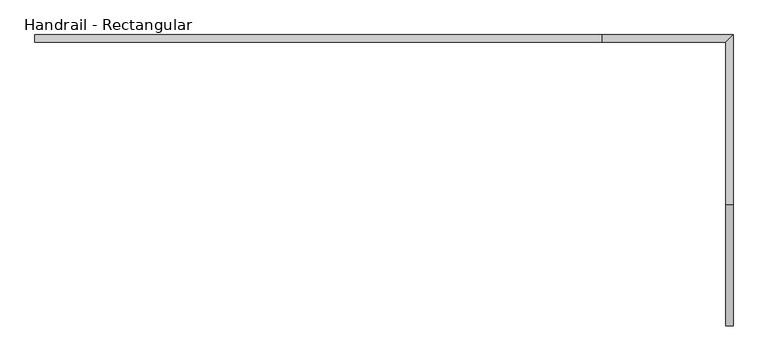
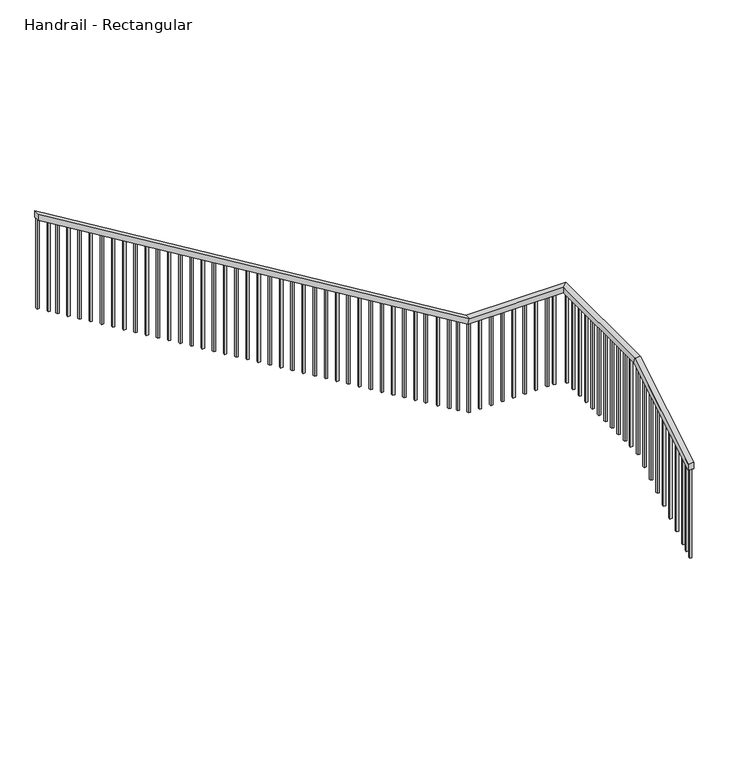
"""IFC4 building model written with IfcOpenShell, lengths in millimetres: railing geometry, Handrail - Rectangular."""

from ifc_helpers import new_model, si_unit, frame, origin, place, context, project, spatial, polyline, outline, extrude, faceted_brep, source, transform, mapped, element, save


def handrail_rectangular_a6d9fd62(model_context):
    return source(origin(), model_context, "Body", "SolidModel", [
        faceted_brep([(85.6957664, 19516.6480156, 43755.7333333), (85.6957664, 19516.6480156, 43696.3318731), (136.4957664, 19516.6480156, 43696.3318731), (136.4957664, 19516.6480156, 43755.7333333), (85.6957664, 20354.8480156, 44263.7333333), (85.6957664, 20369.040425, 44212.9333333), (136.4957664, 20369.040425, 44212.9333333), (136.4957664, 20354.8480156, 44263.7333333), (85.6957664, 21474.0355156, 44263.7333333), (85.6957664, 21474.0355156, 44212.9333333), (136.4957664, 21524.8355156, 44212.9333333), (136.4957664, 21524.8355156, 44263.7333333), (-768.3792336, 21474.0355156, 44263.7333333), (-782.571643, 21474.0355156, 44212.9333333), (-782.571643, 21524.8355156, 44212.9333333), (-768.3792336, 21524.8355156, 44263.7333333), (-4679.9792336, 21474.0355156, 46634.4), (-4679.9792336, 21524.8355156, 46634.4), (-4679.9792336, 21524.8355156, 46574.9985397), (-4679.9792336, 21474.0355156, 46574.9985397)], [[[0, 1, 2, 3]], [[1, 0, 4, 5]], [[2, 1, 5, 6]], [[3, 2, 6, 7]], [[0, 3, 7, 4]], [[5, 4, 8, 9]], [[6, 5, 9, 10]], [[7, 6, 10, 11]], [[4, 7, 11, 8]], [[9, 8, 12, 13]], [[10, 9, 13, 14]], [[11, 10, 14, 15]], [[8, 11, 15, 12]], [[16, 17, 18, 19]], [[13, 12, 16, 19]], [[14, 13, 19, 18]], [[15, 14, 18, 17]], [[12, 15, 17, 16]]]),
        extrude(outline(polyline([(45714.2272727, -4679.9792336), (45714.2272727, -4660.9292336), (46563.4530852, -4660.9292336), (46574.9985397, -4679.9792336), (45714.2272727, -4679.9792336)])), frame((0.0, 21489.9105156, 0.0), z_axis=(0.0, 1.0, 0.0), x_axis=(0.0, 0.0, 1.0)), (0.0, 0.0, 1.0), 19.05),
        extrude(outline(polyline([(45652.6515152, -4578.3792336), (45652.6515152, -4559.3292336), (46501.8773276, -4559.3292336), (46513.4227822, -4578.3792336), (45652.6515152, -4578.3792336)])), frame((0.0, 21489.9105156, 0.0), z_axis=(0.0, 1.0, 0.0), x_axis=(0.0, 0.0, 1.0)), (0.0, 0.0, 1.0), 19.05),
        extrude(outline(polyline([(45604.5454545, -4499.0042336), (45604.5454545, -4479.9542336), (46453.771267, -4479.9542336), (46465.3167216, -4499.0042336), (45604.5454545, -4499.0042336)])), frame((0.0, 21489.9105156, 0.0), z_axis=(0.0, 1.0, 0.0), x_axis=(0.0, 0.0, 1.0)), (0.0, 0.0, 1.0), 19.05),
        extrude(outline(polyline([(45544.8939394, -4400.5792336), (45544.8939394, -4381.5292336), (46394.1197519, -4381.5292336), (46405.6652064, -4400.5792336), (45544.8939394, -4400.5792336)])), frame((0.0, 21489.9105156, 0.0), z_axis=(0.0, 1.0, 0.0), x_axis=(0.0, 0.0, 1.0)), (0.0, 0.0, 1.0), 19.05),
        extrude(outline(polyline([(45483.3181818, -4298.9792336), (45483.3181818, -4279.9292336), (46332.5439943, -4279.9292336), (46344.0894488, -4298.9792336), (45483.3181818, -4298.9792336)])), frame((0.0, 21489.9105156, 0.0), z_axis=(0.0, 1.0, 0.0), x_axis=(0.0, 0.0, 1.0)), (0.0, 0.0, 1.0), 19.05),
        extrude(outline(polyline([(45421.7424242, -4197.3792336), (45421.7424242, -4178.3292336), (46270.9682367, -4178.3292336), (46282.5136913, -4197.3792336), (45421.7424242, -4197.3792336)])), frame((0.0, 21489.9105156, 0.0), z_axis=(0.0, 1.0, 0.0), x_axis=(0.0, 0.0, 1.0)), (0.0, 0.0, 1.0), 19.05),
        extrude(outline(polyline([(45360.1666667, -4095.7792336), (45360.1666667, -4076.7292336), (46209.3924791, -4076.7292336), (46220.9379337, -4095.7792336), (45360.1666667, -4095.7792336)])), frame((0.0, 21489.9105156, 0.0), z_axis=(0.0, 1.0, 0.0), x_axis=(0.0, 0.0, 1.0)), (0.0, 0.0, 1.0), 19.05),
        extrude(outline(polyline([(45298.5909091, -3994.1792336), (45298.5909091, -3975.1292336), (46147.8167216, -3975.1292336), (46159.3621761, -3994.1792336), (45298.5909091, -3994.1792336)])), frame((0.0, 21489.9105156, 0.0), z_axis=(0.0, 1.0, 0.0), x_axis=(0.0, 0.0, 1.0)), (0.0, 0.0, 1.0), 19.05),
        extrude(outline(polyline([(45237.0151515, -3892.5792336), (45237.0151515, -3873.5292336), (46086.240964, -3873.5292336), (46097.7864185, -3892.5792336), (45237.0151515, -3892.5792336)])), frame((0.0, 21489.9105156, 0.0), z_axis=(0.0, 1.0, 0.0), x_axis=(0.0, 0.0, 1.0)), (0.0, 0.0, 1.0), 19.05),
        extrude(outline(polyline([(45175.4393939, -3790.9792336), (45175.4393939, -3771.9292336), (46024.6652064, -3771.9292336), (46036.210661, -3790.9792336), (45175.4393939, -3790.9792336)])), frame((0.0, 21489.9105156, 0.0), z_axis=(0.0, 1.0, 0.0), x_axis=(0.0, 0.0, 1.0)), (0.0, 0.0, 1.0), 19.05),
        extrude(outline(polyline([(45113.8636364, -3689.3792336), (45113.8636364, -3670.3292336), (45963.0894488, -3670.3292336), (45974.6349034, -3689.3792336), (45113.8636364, -3689.3792336)])), frame((0.0, 21489.9105156, 0.0), z_axis=(0.0, 1.0, 0.0), x_axis=(0.0, 0.0, 1.0)), (0.0, 0.0, 1.0), 19.05),
        extrude(outline(polyline([(45052.2878788, -3587.7792336), (45052.2878788, -3568.7292336), (45901.5136913, -3568.7292336), (45913.0591458, -3587.7792336), (45052.2878788, -3587.7792336)])), frame((0.0, 21489.9105156, 0.0), z_axis=(0.0, 1.0, 0.0), x_axis=(0.0, 0.0, 1.0)), (0.0, 0.0, 1.0), 19.05),
        extrude(outline(polyline([(44990.7121212, -3486.1792336), (44990.7121212, -3467.1292336), (45839.9379337, -3467.1292336), (45851.4833882, -3486.1792336), (44990.7121212, -3486.1792336)])), frame((0.0, 21489.9105156, 0.0), z_axis=(0.0, 1.0, 0.0), x_axis=(0.0, 0.0, 1.0)), (0.0, 0.0, 1.0), 19.05),
        extrude(outline(polyline([(44929.1363636, -3384.5792336), (44929.1363636, -3365.5292336), (45778.3621761, -3365.5292336), (45789.9076307, -3384.5792336), (44929.1363636, -3384.5792336)])), frame((0.0, 21489.9105156, 0.0), z_axis=(0.0, 1.0, 0.0), x_axis=(0.0, 0.0, 1.0)), (0.0, 0.0, 1.0), 19.05),
        extrude(outline(polyline([(44867.5606061, -3282.9792336), (44867.5606061, -3263.9292336), (45716.7864185, -3263.9292336), (45728.3318731, -3282.9792336), (44867.5606061, -3282.9792336)])), frame((0.0, 21489.9105156, 0.0), z_axis=(0.0, 1.0, 0.0), x_axis=(0.0, 0.0, 1.0)), (0.0, 0.0, 1.0), 19.05),
        extrude(outline(polyline([(44805.9848485, -3181.3792336), (44805.9848485, -3162.3292336), (45655.210661, -3162.3292336), (45666.7561155, -3181.3792336), (44805.9848485, -3181.3792336)])), frame((0.0, 21489.9105156, 0.0), z_axis=(0.0, 1.0, 0.0), x_axis=(0.0, 0.0, 1.0)), (0.0, 0.0, 1.0), 19.05),
        extrude(outline(polyline([(44744.4090909, -3079.7792336), (44744.4090909, -3060.7292336), (45593.6349034, -3060.7292336), (45605.1803579, -3079.7792336), (44744.4090909, -3079.7792336)])), frame((0.0, 21489.9105156, 0.0), z_axis=(0.0, 1.0, 0.0), x_axis=(0.0, 0.0, 1.0)), (0.0, 0.0, 1.0), 19.05),
        extrude(outline(polyline([(44682.8333333, -2978.1792336), (44682.8333333, -2959.1292336), (45532.0591458, -2959.1292336), (45543.6046004, -2978.1792336), (44682.8333333, -2978.1792336)])), frame((0.0, 21489.9105156, 0.0), z_axis=(0.0, 1.0, 0.0), x_axis=(0.0, 0.0, 1.0)), (0.0, 0.0, 1.0), 19.05),
        extrude(outline(polyline([(44621.2575758, -2876.5792336), (44621.2575758, -2857.5292336), (45470.4833882, -2857.5292336), (45482.0288428, -2876.5792336), (44621.2575758, -2876.5792336)])), frame((0.0, 21489.9105156, 0.0), z_axis=(0.0, 1.0, 0.0), x_axis=(0.0, 0.0, 1.0)), (0.0, 0.0, 1.0), 19.05),
        extrude(outline(polyline([(44559.6818182, -2774.9792336), (44559.6818182, -2755.9292336), (45408.9076307, -2755.9292336), (45420.4530852, -2774.9792336), (44559.6818182, -2774.9792336)])), frame((0.0, 21489.9105156, 0.0), z_axis=(0.0, 1.0, 0.0), x_axis=(0.0, 0.0, 1.0)), (0.0, 0.0, 1.0), 19.05),
        extrude(outline(polyline([(44498.1060606, -2673.3792336), (44498.1060606, -2654.3292336), (45347.3318731, -2654.3292336), (45358.8773276, -2673.3792336), (44498.1060606, -2673.3792336)])), frame((0.0, 21489.9105156, 0.0), z_axis=(0.0, 1.0, 0.0), x_axis=(0.0, 0.0, 1.0)), (0.0, 0.0, 1.0), 19.05),
        extrude(outline(polyline([(44436.530303, -2571.7792336), (44436.530303, -2552.7292336), (45285.7561155, -2552.7292336), (45297.30157, -2571.7792336), (44436.530303, -2571.7792336)])), frame((0.0, 21489.9105156, 0.0), z_axis=(0.0, 1.0, 0.0), x_axis=(0.0, 0.0, 1.0)), (0.0, 0.0, 1.0), 19.05),
        extrude(outline(polyline([(44374.9545455, -2470.1792336), (44374.9545455, -2451.1292336), (45224.1803579, -2451.1292336), (45235.7258125, -2470.1792336), (44374.9545455, -2470.1792336)])), frame((0.0, 21489.9105156, 0.0), z_axis=(0.0, 1.0, 0.0), x_axis=(0.0, 0.0, 1.0)), (0.0, 0.0, 1.0), 19.05),
        extrude(outline(polyline([(44313.3787879, -2368.5792336), (44313.3787879, -2349.5292336), (45162.6046004, -2349.5292336), (45174.1500549, -2368.5792336), (44313.3787879, -2368.5792336)])), frame((0.0, 21489.9105156, 0.0), z_axis=(0.0, 1.0, 0.0), x_axis=(0.0, 0.0, 1.0)), (0.0, 0.0, 1.0), 19.05),
        extrude(outline(polyline([(44251.8030303, -2266.9792336), (44251.8030303, -2247.9292336), (45101.0288428, -2247.9292336), (45112.5742973, -2266.9792336), (44251.8030303, -2266.9792336)])), frame((0.0, 21489.9105156, 0.0), z_axis=(0.0, 1.0, 0.0), x_axis=(0.0, 0.0, 1.0)), (0.0, 0.0, 1.0), 19.05),
        extrude(outline(polyline([(44190.2272727, -2165.3792336), (44190.2272727, -2146.3292336), (45039.4530852, -2146.3292336), (45050.9985397, -2165.3792336), (44190.2272727, -2165.3792336)])), frame((0.0, 21489.9105156, 0.0), z_axis=(0.0, 1.0, 0.0), x_axis=(0.0, 0.0, 1.0)), (0.0, 0.0, 1.0), 19.05),
        extrude(outline(polyline([(44128.6515152, -2063.7792336), (44128.6515152, -2044.7292336), (44977.8773276, -2044.7292336), (44989.4227822, -2063.7792336), (44128.6515152, -2063.7792336)])), frame((0.0, 21489.9105156, 0.0), z_axis=(0.0, 1.0, 0.0), x_axis=(0.0, 0.0, 1.0)), (0.0, 0.0, 1.0), 19.05),
        extrude(outline(polyline([(44067.0757576, -1962.1792336), (44067.0757576, -1943.1292336), (44916.30157, -1943.1292336), (44927.8470246, -1962.1792336), (44067.0757576, -1962.1792336)])), frame((0.0, 21489.9105156, 0.0), z_axis=(0.0, 1.0, 0.0), x_axis=(0.0, 0.0, 1.0)), (0.0, 0.0, 1.0), 19.05),
        extrude(outline(polyline([(44005.5, -1860.5792336), (44005.5, -1841.5292336), (44854.7258125, -1841.5292336), (44866.271267, -1860.5792336), (44005.5, -1860.5792336)])), frame((0.0, 21489.9105156, 0.0), z_axis=(0.0, 1.0, 0.0), x_axis=(0.0, 0.0, 1.0)), (0.0, 0.0, 1.0), 19.05),
        extrude(outline(polyline([(43943.9242424, -1758.9792336), (43943.9242424, -1739.9292336), (44793.1500549, -1739.9292336), (44804.6955094, -1758.9792336), (43943.9242424, -1758.9792336)])), frame((0.0, 21489.9105156, 0.0), z_axis=(0.0, 1.0, 0.0), x_axis=(0.0, 0.0, 1.0)), (0.0, 0.0, 1.0), 19.05),
        extrude(outline(polyline([(43882.3484848, -1657.3792336), (43882.3484848, -1638.3292336), (44731.5742973, -1638.3292336), (44743.1197519, -1657.3792336), (43882.3484848, -1657.3792336)])), frame((0.0, 21489.9105156, 0.0), z_axis=(0.0, 1.0, 0.0), x_axis=(0.0, 0.0, 1.0)), (0.0, 0.0, 1.0), 19.05),
        extrude(outline(polyline([(43820.7727273, -1555.7792336), (43820.7727273, -1536.7292336), (44669.9985397, -1536.7292336), (44681.5439943, -1555.7792336), (43820.7727273, -1555.7792336)])), frame((0.0, 21489.9105156, 0.0), z_axis=(0.0, 1.0, 0.0), x_axis=(0.0, 0.0, 1.0)), (0.0, 0.0, 1.0), 19.05),
        extrude(outline(polyline([(43759.1969697, -1454.1792336), (43759.1969697, -1435.1292336), (44608.4227822, -1435.1292336), (44619.9682367, -1454.1792336), (43759.1969697, -1454.1792336)])), frame((0.0, 21489.9105156, 0.0), z_axis=(0.0, 1.0, 0.0), x_axis=(0.0, 0.0, 1.0)), (0.0, 0.0, 1.0), 19.05),
        extrude(outline(polyline([(43697.6212121, -1352.5792336), (43697.6212121, -1333.5292336), (44546.8470246, -1333.5292336), (44558.3924791, -1352.5792336), (43697.6212121, -1352.5792336)])), frame((0.0, 21489.9105156, 0.0), z_axis=(0.0, 1.0, 0.0), x_axis=(0.0, 0.0, 1.0)), (0.0, 0.0, 1.0), 19.05),
        extrude(outline(polyline([(43636.0454545, -1250.9792336), (43636.0454545, -1231.9292336), (44485.271267, -1231.9292336), (44496.8167216, -1250.9792336), (43636.0454545, -1250.9792336)])), frame((0.0, 21489.9105156, 0.0), z_axis=(0.0, 1.0, 0.0), x_axis=(0.0, 0.0, 1.0)), (0.0, 0.0, 1.0), 19.05),
        extrude(outline(polyline([(43580.2424242, -1158.9042336), (43580.2424242, -1139.8542336), (44429.4682367, -1139.8542336), (44441.0136913, -1158.9042336), (43580.2424242, -1158.9042336)])), frame((0.0, 21489.9105156, 0.0), z_axis=(0.0, 1.0, 0.0), x_axis=(0.0, 0.0, 1.0)), (0.0, 0.0, 1.0), 19.05),
        extrude(outline(polyline([(43512.8939394, -1047.7792336), (43512.8939394, -1028.7292336), (44362.1197519, -1028.7292336), (44373.6652064, -1047.7792336), (43512.8939394, -1047.7792336)])), frame((0.0, 21489.9105156, 0.0), z_axis=(0.0, 1.0, 0.0), x_axis=(0.0, 0.0, 1.0)), (0.0, 0.0, 1.0), 19.05),
        extrude(outline(polyline([(43451.3181818, -946.1792336), (43451.3181818, -927.1292336), (44300.5439943, -927.1292336), (44312.0894488, -946.1792336), (43451.3181818, -946.1792336)])), frame((0.0, 21489.9105156, 0.0), z_axis=(0.0, 1.0, 0.0), x_axis=(0.0, 0.0, 1.0)), (0.0, 0.0, 1.0), 19.05),
        extrude(outline(polyline([(43403.2121212, -866.8042336), (43403.2121212, -847.7542336), (44252.4379337, -847.7542336), (44263.9833882, -866.8042336), (43403.2121212, -866.8042336)])), frame((0.0, 21489.9105156, 0.0), z_axis=(0.0, 1.0, 0.0), x_axis=(0.0, 0.0, 1.0)), (0.0, 0.0, 1.0), 19.05),
        extrude(outline(polyline([(-749.3292336, 21489.9105156), (-768.3792336, 21489.9105156), (-768.3792336, 21508.9605156), (-749.3292336, 21508.9605156), (-749.3292336, 21489.9105156)])), frame((0.0, 0.0, 43349.3333333), z_axis=(0.0, 0.0, 1.0), x_axis=(1.0, 0.0, 0.0)), (0.0, 0.0, 1.0), 863.6),
        extrude(outline(polyline([(-647.7292336, 21489.9105156), (-666.7792336, 21489.9105156), (-666.7792336, 21508.9605156), (-647.7292336, 21508.9605156), (-647.7292336, 21489.9105156)])), frame((0.0, 0.0, 43349.3333333), z_axis=(0.0, 0.0, 1.0), x_axis=(1.0, 0.0, 0.0)), (0.0, 0.0, 1.0), 863.6),
        extrude(outline(polyline([(-546.1292336, 21489.9105156), (-565.1792336, 21489.9105156), (-565.1792336, 21508.9605156), (-546.1292336, 21508.9605156), (-546.1292336, 21489.9105156)])), frame((0.0, 0.0, 43349.3333333), z_axis=(0.0, 0.0, 1.0), x_axis=(1.0, 0.0, 0.0)), (0.0, 0.0, 1.0), 863.6),
        extrude(outline(polyline([(-444.5292336, 21489.9105156), (-463.5792336, 21489.9105156), (-463.5792336, 21508.9605156), (-444.5292336, 21508.9605156), (-444.5292336, 21489.9105156)])), frame((0.0, 0.0, 43349.3333333), z_axis=(0.0, 0.0, 1.0), x_axis=(1.0, 0.0, 0.0)), (0.0, 0.0, 1.0), 863.6),
        extrude(outline(polyline([(-342.9292336, 21489.9105156), (-361.9792336, 21489.9105156), (-361.9792336, 21508.9605156), (-342.9292336, 21508.9605156), (-342.9292336, 21489.9105156)])), frame((0.0, 0.0, 43349.3333333), z_axis=(0.0, 0.0, 1.0), x_axis=(1.0, 0.0, 0.0)), (0.0, 0.0, 1.0), 863.6),
        extrude(outline(polyline([(-241.3292336, 21489.9105156), (-260.3792336, 21489.9105156), (-260.3792336, 21508.9605156), (-241.3292336, 21508.9605156), (-241.3292336, 21489.9105156)])), frame((0.0, 0.0, 43349.3333333), z_axis=(0.0, 0.0, 1.0), x_axis=(1.0, 0.0, 0.0)), (0.0, 0.0, 1.0), 863.6),
        extrude(outline(polyline([(-139.7292336, 21489.9105156), (-158.7792336, 21489.9105156), (-158.7792336, 21508.9605156), (-139.7292336, 21508.9605156), (-139.7292336, 21489.9105156)])), frame((0.0, 0.0, 43349.3333333), z_axis=(0.0, 0.0, 1.0), x_axis=(1.0, 0.0, 0.0)), (0.0, 0.0, 1.0), 863.6),
        extrude(outline(polyline([(-38.1292336, 21489.9105156), (-57.1792336, 21489.9105156), (-57.1792336, 21508.9605156), (-38.1292336, 21508.9605156), (-38.1292336, 21489.9105156)])), frame((0.0, 0.0, 43349.3333333), z_axis=(0.0, 0.0, 1.0), x_axis=(1.0, 0.0, 0.0)), (0.0, 0.0, 1.0), 863.6),
        extrude(outline(polyline([(23.7832664, 21489.9105156), (4.7332664, 21489.9105156), (4.7332664, 21508.9605156), (23.7832664, 21508.9605156), (23.7832664, 21489.9105156)])), frame((0.0, 0.0, 43349.3333333), z_axis=(0.0, 0.0, 1.0), x_axis=(1.0, 0.0, 0.0)), (0.0, 0.0, 1.0), 863.6),
        extrude(outline(polyline([(101.5707664, 21454.9855156), (101.5707664, 21474.0355156), (120.6207664, 21474.0355156), (120.6207664, 21454.9855156), (101.5707664, 21454.9855156)])), frame((0.0, 0.0, 43349.3333333), z_axis=(0.0, 0.0, 1.0), x_axis=(1.0, 0.0, 0.0)), (0.0, 0.0, 1.0), 863.6),
        extrude(outline(polyline([(101.5707664, 21353.3855156), (101.5707664, 21372.4355156), (120.6207664, 21372.4355156), (120.6207664, 21353.3855156), (101.5707664, 21353.3855156)])), frame((0.0, 0.0, 43349.3333333), z_axis=(0.0, 0.0, 1.0), x_axis=(1.0, 0.0, 0.0)), (0.0, 0.0, 1.0), 863.6),
        extrude(outline(polyline([(101.5707664, 21251.7855156), (101.5707664, 21270.8355156), (120.6207664, 21270.8355156), (120.6207664, 21251.7855156), (101.5707664, 21251.7855156)])), frame((0.0, 0.0, 43349.3333333), z_axis=(0.0, 0.0, 1.0), x_axis=(1.0, 0.0, 0.0)), (0.0, 0.0, 1.0), 863.6),
        extrude(outline(polyline([(101.5707664, 21150.1855156), (101.5707664, 21169.2355156), (120.6207664, 21169.2355156), (120.6207664, 21150.1855156), (101.5707664, 21150.1855156)])), frame((0.0, 0.0, 43349.3333333), z_axis=(0.0, 0.0, 1.0), x_axis=(1.0, 0.0, 0.0)), (0.0, 0.0, 1.0), 863.6),
        extrude(outline(polyline([(101.5707664, 21048.5855156), (101.5707664, 21067.6355156), (120.6207664, 21067.6355156), (120.6207664, 21048.5855156), (101.5707664, 21048.5855156)])), frame((0.0, 0.0, 43349.3333333), z_axis=(0.0, 0.0, 1.0), x_axis=(1.0, 0.0, 0.0)), (0.0, 0.0, 1.0), 863.6),
        extrude(outline(polyline([(101.5707664, 20946.9855156), (101.5707664, 20966.0355156), (120.6207664, 20966.0355156), (120.6207664, 20946.9855156), (101.5707664, 20946.9855156)])), frame((0.0, 0.0, 43349.3333333), z_axis=(0.0, 0.0, 1.0), x_axis=(1.0, 0.0, 0.0)), (0.0, 0.0, 1.0), 863.6),
        extrude(outline(polyline([(101.5707664, 20845.3855156), (101.5707664, 20864.4355156), (120.6207664, 20864.4355156), (120.6207664, 20845.3855156), (101.5707664, 20845.3855156)])), frame((0.0, 0.0, 43349.3333333), z_axis=(0.0, 0.0, 1.0), x_axis=(1.0, 0.0, 0.0)), (0.0, 0.0, 1.0), 863.6),
        extrude(outline(polyline([(101.5707664, 20743.7855156), (101.5707664, 20762.8355156), (120.6207664, 20762.8355156), (120.6207664, 20743.7855156), (101.5707664, 20743.7855156)])), frame((0.0, 0.0, 43349.3333333), z_axis=(0.0, 0.0, 1.0), x_axis=(1.0, 0.0, 0.0)), (0.0, 0.0, 1.0), 863.6),
        extrude(outline(polyline([(101.5707664, 20642.1855156), (101.5707664, 20661.2355156), (120.6207664, 20661.2355156), (120.6207664, 20642.1855156), (101.5707664, 20642.1855156)])), frame((0.0, 0.0, 43349.3333333), z_axis=(0.0, 0.0, 1.0), x_axis=(1.0, 0.0, 0.0)), (0.0, 0.0, 1.0), 863.6),
        extrude(outline(polyline([(101.5707664, 20540.5855156), (101.5707664, 20559.6355156), (120.6207664, 20559.6355156), (120.6207664, 20540.5855156), (101.5707664, 20540.5855156)])), frame((0.0, 0.0, 43349.3333333), z_axis=(0.0, 0.0, 1.0), x_axis=(1.0, 0.0, 0.0)), (0.0, 0.0, 1.0), 863.6),
        extrude(outline(polyline([(101.5707664, 20447.7167656), (101.5707664, 20466.7667656), (120.6207664, 20466.7667656), (120.6207664, 20447.7167656), (101.5707664, 20447.7167656)])), frame((0.0, 0.0, 43349.3333333), z_axis=(0.0, 0.0, 1.0), x_axis=(1.0, 0.0, 0.0)), (0.0, 0.0, 1.0), 863.6),
        extrude(outline(polyline([(20354.8480156, 43343.5606061), (20335.7980156, 43343.5606061), (20335.7980156, 44192.7864185), (20354.8480156, 44204.3318731), (20354.8480156, 43343.5606061)])), frame((101.5707664, 0.0, 0.0), z_axis=(1.0, 0.0, 0.0), x_axis=(0.0, 1.0, 0.0)), (0.0, 0.0, 1.0), 19.05),
        extrude(outline(polyline([(20253.2480156, 43281.9848485), (20234.1980156, 43281.9848485), (20234.1980156, 44131.210661), (20253.2480156, 44142.7561155), (20253.2480156, 43281.9848485)])), frame((101.5707664, 0.0, 0.0), z_axis=(1.0, 0.0, 0.0), x_axis=(0.0, 1.0, 0.0)), (0.0, 0.0, 1.0), 19.05),
        extrude(outline(polyline([(20151.6480156, 43220.4090909), (20132.5980156, 43220.4090909), (20132.5980156, 44069.6349034), (20151.6480156, 44081.1803579), (20151.6480156, 43220.4090909)])), frame((101.5707664, 0.0, 0.0), z_axis=(1.0, 0.0, 0.0), x_axis=(0.0, 1.0, 0.0)), (0.0, 0.0, 1.0), 19.05),
        extrude(outline(polyline([(20050.0480156, 43158.8333333), (20030.9980156, 43158.8333333), (20030.9980156, 44008.0591458), (20050.0480156, 44019.6046004), (20050.0480156, 43158.8333333)])), frame((101.5707664, 0.0, 0.0), z_axis=(1.0, 0.0, 0.0), x_axis=(0.0, 1.0, 0.0)), (0.0, 0.0, 1.0), 19.05),
        extrude(outline(polyline([(19948.4480156, 43097.2575758), (19929.3980156, 43097.2575758), (19929.3980156, 43946.4833882), (19948.4480156, 43958.0288428), (19948.4480156, 43097.2575758)])), frame((101.5707664, 0.0, 0.0), z_axis=(1.0, 0.0, 0.0), x_axis=(0.0, 1.0, 0.0)), (0.0, 0.0, 1.0), 19.05),
        extrude(outline(polyline([(19846.8480156, 43035.6818182), (19827.7980156, 43035.6818182), (19827.7980156, 43884.9076307), (19846.8480156, 43896.4530852), (19846.8480156, 43035.6818182)])), frame((101.5707664, 0.0, 0.0), z_axis=(1.0, 0.0, 0.0), x_axis=(0.0, 1.0, 0.0)), (0.0, 0.0, 1.0), 19.05),
        extrude(outline(polyline([(19745.2480156, 42974.1060606), (19726.1980156, 42974.1060606), (19726.1980156, 43823.3318731), (19745.2480156, 43834.8773276), (19745.2480156, 42974.1060606)])), frame((101.5707664, 0.0, 0.0), z_axis=(1.0, 0.0, 0.0), x_axis=(0.0, 1.0, 0.0)), (0.0, 0.0, 1.0), 19.05),
        extrude(outline(polyline([(19643.6480156, 42912.530303), (19624.5980156, 42912.530303), (19624.5980156, 43761.7561155), (19643.6480156, 43773.30157), (19643.6480156, 42912.530303)])), frame((101.5707664, 0.0, 0.0), z_axis=(1.0, 0.0, 0.0), x_axis=(0.0, 1.0, 0.0)), (0.0, 0.0, 1.0), 19.05),
        extrude(outline(polyline([(19589.6730156, 42879.8181818), (19570.6230156, 42879.8181818), (19570.6230156, 43729.0439943), (19589.6730156, 43740.5894488), (19589.6730156, 42879.8181818)])), frame((101.5707664, 0.0, 0.0), z_axis=(1.0, 0.0, 0.0), x_axis=(0.0, 1.0, 0.0)), (0.0, 0.0, 1.0), 19.05),
        extrude(outline(polyline([(19535.6980156, 42847.1060606), (19516.6480156, 42847.1060606), (19516.6480156, 43696.3318731), (19535.6980156, 43707.8773276), (19535.6980156, 42847.1060606)])), frame((101.5707664, 0.0, 0.0), z_axis=(1.0, 0.0, 0.0), x_axis=(0.0, 1.0, 0.0)), (0.0, 0.0, 1.0), 19.05),
    ])


if __name__ == "__main__":
    model = new_model("IFC4")
    model_context = context("Model", 3, world=origin())
    ifc_project = project(units=[si_unit("LENGTHUNIT", "METRE", prefix="MILLI")], contexts=[model_context])
    site = spatial("IfcSite", under=ifc_project)
    building = spatial("IfcBuilding", under=site)
    placement = place(None, origin())
    handrail_rectangular_shape = handrail_rectangular_a6d9fd62(model_context)
    element("IfcRailing", 1, ObjectType="Handrail - Rectangular", at=placement, inside=building, context=model_context, shape_type="MappedRepresentation", body=[
        mapped(handrail_rectangular_shape, transform((0.0, 0.0, 0.0), x_axis=(1.0, 0.0, 0.0), y_axis=(0.0, 1.0, 0.0), z_axis=(0.0, 0.0, 1.0))),
    ])
    save(model, "model.ifc")
